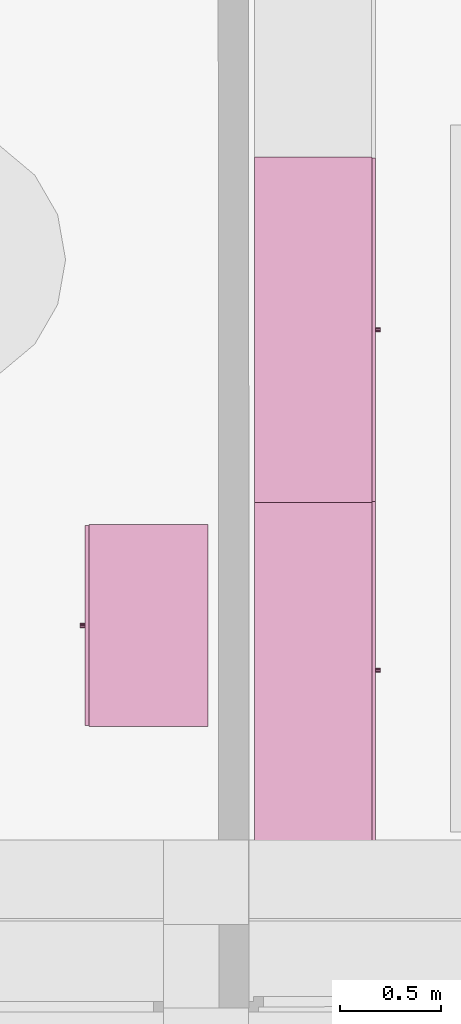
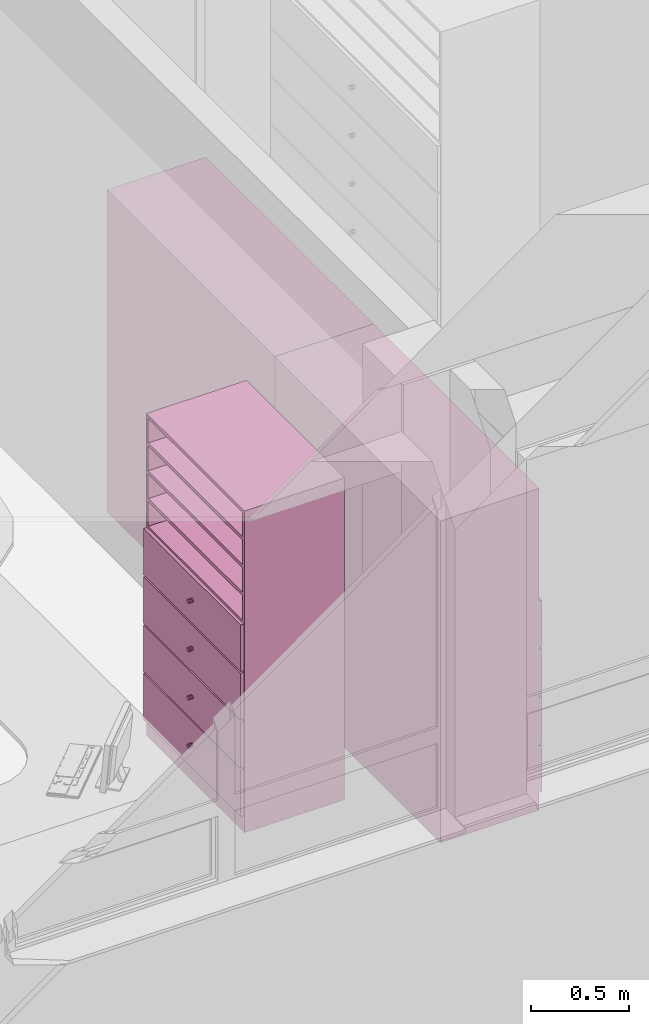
# One storey, part 129 of 194: 3 furnishings.
"""IFC2X3 building model written with IfcOpenShell, lengths in millimetres."""

from ifc_helpers import new_model, entity, si_unit, converted_unit, derived_unit, money_unit, direction, frame, origin_with_axes, place, context, subcontext, project, spatial, faceted_brep, source, transform, mapped, type_object, element, save


model = new_model("IFC2X3")

# Units and contexts
model_context = context("Model", 3, precision=1e-05, world=origin_with_axes(), true_north=direction((0.0, 1.0)))
body_context = subcontext(model_context, "Body", "Model", "MODEL_VIEW")
ifc_project = project(units=[si_unit("LENGTHUNIT", "METRE", prefix="MILLI"), si_unit("AREAUNIT", "SQUARE_METRE"), si_unit("VOLUMEUNIT", "CUBIC_METRE"), converted_unit("PLANEANGLEUNIT", "DEGREE", entity("IfcPlaneAngleMeasure", 0.0174532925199), si_unit("PLANEANGLEUNIT", "RADIAN"), dimensions=[0, 0, 0, 0, 0, 0, 0]), si_unit("SOLIDANGLEUNIT", "STERADIAN"), money_unit("EUR"), converted_unit("TIMEUNIT", "Year", entity("IfcTimeMeasure", 31556926.0), si_unit("TIMEUNIT", "SECOND"), dimensions=[0, 0, 1, 0, 0, 0, 0]), si_unit("MASSUNIT", "GRAM", prefix="KILO"), si_unit("THERMODYNAMICTEMPERATUREUNIT", "DEGREE_CELSIUS"), si_unit("LUMINOUSINTENSITYUNIT", "LUMEN"), si_unit("ENERGYUNIT", "JOULE", prefix="MEGA"), derived_unit("THERMALCONDUCTANCEUNIT", [(si_unit("POWERUNIT", "WATT"), 1), (si_unit("LENGTHUNIT", "METRE"), -1), (si_unit("THERMODYNAMICTEMPERATUREUNIT", "KELVIN"), -1)]), derived_unit("SPECIFICHEATCAPACITYUNIT", [(si_unit("ENERGYUNIT", "JOULE"), 1), (si_unit("MASSUNIT", "GRAM", prefix="KILO"), -1), (si_unit("THERMODYNAMICTEMPERATUREUNIT", "KELVIN"), -1)]), derived_unit("MASSDENSITYUNIT", [(si_unit("MASSUNIT", "GRAM", prefix="KILO"), 1), (si_unit("VOLUMEUNIT", "CUBIC_METRE"), -1)])], contexts=[model_context])

# Site, building, storey
site_placement = place(None, origin_with_axes())
site = spatial("IfcSite", under=ifc_project, at=site_placement, Name="Site", CompositionType="ELEMENT")
building_placement = place(site_placement, origin_with_axes())
building = spatial("IfcBuilding", under=site, at=building_placement, Name="Building", CompositionType="ELEMENT")
storey_placement = place(building_placement, frame((0.0, 0.0, 3000.0), z_axis=(0.0, 0.0, 1.0), x_axis=(1.0, 0.0, 0.0)))
storey = spatial("IfcBuildingStorey", under=building, at=storey_placement, Name="2 KORRUS", CompositionType="ELEMENT", Elevation=3000.0)

# Furnishings
furnishing_element_type_1 = type_object("IfcFurnishingElementType", Name="Model Element 23")
shared_shape_1 = source(origin_with_axes(), body_context, "Body", "Brep", [
    faceted_brep([(1000.0, 19.0, 0.0), (0.0, 19.0, 0.0), (0.0, 608.037064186, 0.0), (1000.0, 608.037064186, 0.0), (1000.0, 19.0, 100.0), (0.0, 19.0, 100.0), (0.0, 608.037064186, 100.0), (1000.0, 608.037064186, 100.0)], [[[0, 1, 2, 3]], [[1, 0, 4, 5]], [[2, 1, 5, 6]], [[3, 2, 6, 7]], [[0, 3, 7, 4]], [[5, 4, 7, 6]]]),
    faceted_brep([(19.0, 608.037064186, 119.0), (19.0, 589.037064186, 119.0), (19.0, 589.037064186, 1981.0), (19.0, 608.037064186, 1981.0), (981.0, 608.037064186, 119.0), (981.0, 589.037064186, 119.0), (981.0, 589.037064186, 1981.0), (981.0, 608.037064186, 1981.0)], [[[0, 1, 2, 3]], [[0, 4, 5, 1]], [[1, 5, 6, 2]], [[3, 2, 6, 7]], [[4, 0, 3, 7]], [[5, 4, 7, 6]]]),
    faceted_brep([(1000.0, 19.0, 100.0), (981.0, 19.0, 100.0), (981.0, 608.037064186, 100.0), (1000.0, 608.037064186, 100.0), (1000.0, 19.0, 2000.0), (981.0, 19.0, 2000.0), (981.0, 608.037064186, 2000.0), (1000.0, 608.037064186, 2000.0)], [[[0, 1, 2, 3]], [[1, 0, 4, 5]], [[2, 1, 5, 6]], [[3, 2, 6, 7]], [[0, 3, 7, 4]], [[5, 4, 7, 6]]]),
    faceted_brep([(19.0, 19.0, 100.0), (0.0, 19.0, 100.0), (0.0, 608.037064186, 100.0), (19.0, 608.037064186, 100.0), (19.0, 19.0, 2000.0), (0.0, 19.0, 2000.0), (0.0, 608.037064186, 2000.0), (19.0, 608.037064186, 2000.0)], [[[0, 1, 2, 3]], [[1, 0, 4, 5]], [[2, 1, 5, 6]], [[3, 2, 6, 7]], [[0, 3, 7, 4]], [[5, 4, 7, 6]]]),
    faceted_brep([(981.0, 19.0, 100.0), (19.0, 19.0, 100.0), (19.0, 608.037064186, 100.0), (981.0, 608.037064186, 100.0), (981.0, 19.0, 119.0), (19.0, 19.0, 119.0), (19.0, 608.037064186, 119.0), (981.0, 608.037064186, 119.0)], [[[0, 1, 2, 3]], [[1, 0, 4, 5]], [[2, 1, 5, 6]], [[3, 2, 6, 7]], [[0, 3, 7, 4]], [[5, 4, 7, 6]]]),
    faceted_brep([(981.0, 19.0, 1981.0), (19.0, 19.0, 1981.0), (19.0, 608.037064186, 1981.0), (981.0, 608.037064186, 1981.0), (981.0, 19.0, 2000.0), (19.0, 19.0, 2000.0), (19.0, 608.037064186, 2000.0), (981.0, 608.037064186, 2000.0)], [[[0, 1, 2, 3]], [[1, 0, 4, 5]], [[2, 1, 5, 6]], [[3, 2, 6, 7]], [[0, 3, 7, 4]], [[5, 4, 7, 6]]]),
    faceted_brep([(5.0, 19.0, 105.0), (995.0, 19.0, 105.0), (995.0, 0.0, 105.0), (5.0, 0.0, 105.0), (5.0, 19.0, 395.0), (995.0, 19.0, 395.0), (995.0, 0.0, 395.0), (5.0, 0.0, 395.0)], [[[0, 1, 2, 3]], [[0, 4, 5, 1]], [[1, 5, 6, 2]], [[3, 2, 6, 7]], [[4, 0, 3, 7]], [[5, 4, 7, 6]]]),
    faceted_brep([(510.392304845, 0.0, 244.0), (506.0, 0.0, 239.607695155), (500.0, 0.0, 238.0), (494.0, 0.0, 239.607695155), (489.607695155, 0.0, 244.0), (488.0, 0.0, 250.0), (489.607695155, 0.0, 256.0), (494.0, 0.0, 260.392304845), (500.0, 0.0, 262.0), (506.0, 0.0, 260.392304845), (510.392304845, 0.0, 256.0), (512.0, 0.0, 250.0), (510.392304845, -25.0, 244.0), (506.0, -25.0, 239.607695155), (500.0, -25.0, 238.0), (494.0, -25.0, 239.607695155), (489.607695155, -25.0, 244.0), (488.0, -25.0, 250.0), (489.607695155, -25.0, 256.0), (494.0, -25.0, 260.392304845), (500.0, -25.0, 262.0), (506.0, -25.0, 260.392304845), (510.392304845, -25.0, 256.0), (512.0, -25.0, 250.0)], [[[0, 1, 2, 3, 4, 5, 6, 7, 8, 9, 10, 11]], [[1, 0, 12, 13]], [[2, 1, 13, 14]], [[3, 2, 14, 15]], [[4, 3, 15, 16]], [[5, 4, 16, 17]], [[6, 5, 17, 18]], [[7, 6, 18, 19]], [[8, 7, 19, 20]], [[9, 8, 20, 21]], [[10, 9, 21, 22]], [[11, 10, 22, 23]], [[0, 11, 23, 12]], [[12, 23, 22, 21, 20, 19, 18, 17, 16, 15, 14, 13]]]),
    faceted_brep([(5.0, 19.0, 405.0), (995.0, 19.0, 405.0), (995.0, 0.0, 405.0), (5.0, 0.0, 405.0), (5.0, 19.0, 695.0), (995.0, 19.0, 695.0), (995.0, 0.0, 695.0), (5.0, 0.0, 695.0)], [[[0, 1, 2, 3]], [[0, 4, 5, 1]], [[1, 5, 6, 2]], [[3, 2, 6, 7]], [[4, 0, 3, 7]], [[5, 4, 7, 6]]]),
    faceted_brep([(510.392304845, 0.0, 544.0), (506.0, 0.0, 539.607695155), (500.0, 0.0, 538.0), (494.0, 0.0, 539.607695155), (489.607695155, 0.0, 544.0), (488.0, 0.0, 550.0), (489.607695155, 0.0, 556.0), (494.0, 0.0, 560.392304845), (500.0, 0.0, 562.0), (506.0, 0.0, 560.392304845), (510.392304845, 0.0, 556.0), (512.0, 0.0, 550.0), (510.392304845, -25.0, 544.0), (506.0, -25.0, 539.607695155), (500.0, -25.0, 538.0), (494.0, -25.0, 539.607695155), (489.607695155, -25.0, 544.0), (488.0, -25.0, 550.0), (489.607695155, -25.0, 556.0), (494.0, -25.0, 560.392304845), (500.0, -25.0, 562.0), (506.0, -25.0, 560.392304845), (510.392304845, -25.0, 556.0), (512.0, -25.0, 550.0)], [[[0, 1, 2, 3, 4, 5, 6, 7, 8, 9, 10, 11]], [[1, 0, 12, 13]], [[2, 1, 13, 14]], [[3, 2, 14, 15]], [[4, 3, 15, 16]], [[5, 4, 16, 17]], [[6, 5, 17, 18]], [[7, 6, 18, 19]], [[8, 7, 19, 20]], [[9, 8, 20, 21]], [[10, 9, 21, 22]], [[11, 10, 22, 23]], [[0, 11, 23, 12]], [[12, 23, 22, 21, 20, 19, 18, 17, 16, 15, 14, 13]]]),
    faceted_brep([(5.0, 19.0, 705.0), (995.0, 19.0, 705.0), (995.0, 0.0, 705.0), (5.0, 0.0, 705.0), (5.0, 19.0, 995.0), (995.0, 19.0, 995.0), (995.0, 0.0, 995.0), (5.0, 0.0, 995.0)], [[[0, 1, 2, 3]], [[0, 4, 5, 1]], [[1, 5, 6, 2]], [[3, 2, 6, 7]], [[4, 0, 3, 7]], [[5, 4, 7, 6]]]),
    faceted_brep([(510.392304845, 0.0, 844.0), (506.0, 0.0, 839.607695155), (500.0, 0.0, 838.0), (494.0, 0.0, 839.607695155), (489.607695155, 0.0, 844.0), (488.0, 0.0, 850.0), (489.607695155, 0.0, 856.0), (494.0, 0.0, 860.392304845), (500.0, 0.0, 862.0), (506.0, 0.0, 860.392304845), (510.392304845, 0.0, 856.0), (512.0, 0.0, 850.0), (510.392304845, -25.0, 844.0), (506.0, -25.0, 839.607695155), (500.0, -25.0, 838.0), (494.0, -25.0, 839.607695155), (489.607695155, -25.0, 844.0), (488.0, -25.0, 850.0), (489.607695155, -25.0, 856.0), (494.0, -25.0, 860.392304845), (500.0, -25.0, 862.0), (506.0, -25.0, 860.392304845), (510.392304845, -25.0, 856.0), (512.0, -25.0, 850.0)], [[[0, 1, 2, 3, 4, 5, 6, 7, 8, 9, 10, 11]], [[1, 0, 12, 13]], [[2, 1, 13, 14]], [[3, 2, 14, 15]], [[4, 3, 15, 16]], [[5, 4, 16, 17]], [[6, 5, 17, 18]], [[7, 6, 18, 19]], [[8, 7, 19, 20]], [[9, 8, 20, 21]], [[10, 9, 21, 22]], [[11, 10, 22, 23]], [[0, 11, 23, 12]], [[12, 23, 22, 21, 20, 19, 18, 17, 16, 15, 14, 13]]]),
    faceted_brep([(5.0, 19.0, 1005.0), (995.0, 19.0, 1005.0), (995.0, 0.0, 1005.0), (5.0, 0.0, 1005.0), (5.0, 19.0, 1295.0), (995.0, 19.0, 1295.0), (995.0, 0.0, 1295.0), (5.0, 0.0, 1295.0)], [[[0, 1, 2, 3]], [[0, 4, 5, 1]], [[1, 5, 6, 2]], [[3, 2, 6, 7]], [[4, 0, 3, 7]], [[5, 4, 7, 6]]]),
    faceted_brep([(510.392304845, 0.0, 1144.0), (506.0, 0.0, 1139.60769515), (500.0, 0.0, 1138.0), (494.0, 0.0, 1139.60769515), (489.607695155, 0.0, 1144.0), (488.0, 0.0, 1150.0), (489.607695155, 0.0, 1156.0), (494.0, 0.0, 1160.39230485), (500.0, 0.0, 1162.0), (506.0, 0.0, 1160.39230485), (510.392304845, 0.0, 1156.0), (512.0, 0.0, 1150.0), (510.392304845, -25.0, 1144.0), (506.0, -25.0, 1139.60769515), (500.0, -25.0, 1138.0), (494.0, -25.0, 1139.60769515), (489.607695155, -25.0, 1144.0), (488.0, -25.0, 1150.0), (489.607695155, -25.0, 1156.0), (494.0, -25.0, 1160.39230485), (500.0, -25.0, 1162.0), (506.0, -25.0, 1160.39230485), (510.392304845, -25.0, 1156.0), (512.0, -25.0, 1150.0)], [[[0, 1, 2, 3, 4, 5, 6, 7, 8, 9, 10, 11]], [[1, 0, 12, 13]], [[2, 1, 13, 14]], [[3, 2, 14, 15]], [[4, 3, 15, 16]], [[5, 4, 16, 17]], [[6, 5, 17, 18]], [[7, 6, 18, 19]], [[8, 7, 19, 20]], [[9, 8, 20, 21]], [[10, 9, 21, 22]], [[11, 10, 22, 23]], [[0, 11, 23, 12]], [[12, 23, 22, 21, 20, 19, 18, 17, 16, 15, 14, 13]]]),
    faceted_brep([(19.0, 19.0, 390.5), (981.0, 19.0, 390.5), (981.0, 19.0, 409.5), (19.0, 19.0, 409.5), (19.0, 589.037064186, 390.5), (981.0, 589.037064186, 390.5), (981.0, 589.037064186, 409.5), (19.0, 589.037064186, 409.5)], [[[0, 1, 2, 3]], [[0, 4, 5, 1]], [[1, 5, 6, 2]], [[3, 2, 6, 7]], [[4, 0, 3, 7]], [[5, 4, 7, 6]]]),
    faceted_brep([(19.0, 19.0, 690.5), (981.0, 19.0, 690.5), (981.0, 19.0, 709.5), (19.0, 19.0, 709.5), (19.0, 589.037064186, 690.5), (981.0, 589.037064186, 690.5), (981.0, 589.037064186, 709.5), (19.0, 589.037064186, 709.5)], [[[0, 1, 2, 3]], [[0, 4, 5, 1]], [[1, 5, 6, 2]], [[3, 2, 6, 7]], [[4, 0, 3, 7]], [[5, 4, 7, 6]]]),
    faceted_brep([(19.0, 19.0, 990.5), (981.0, 19.0, 990.5), (981.0, 19.0, 1009.5), (19.0, 19.0, 1009.5), (19.0, 589.037064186, 990.5), (981.0, 589.037064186, 990.5), (981.0, 589.037064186, 1009.5), (19.0, 589.037064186, 1009.5)], [[[0, 1, 2, 3]], [[0, 4, 5, 1]], [[1, 5, 6, 2]], [[3, 2, 6, 7]], [[4, 0, 3, 7]], [[5, 4, 7, 6]]]),
    faceted_brep([(19.0, 19.0, 1290.5), (981.0, 19.0, 1290.5), (981.0, 19.0, 1309.5), (19.0, 19.0, 1309.5), (19.0, 589.037064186, 1290.5), (981.0, 589.037064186, 1290.5), (981.0, 589.037064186, 1309.5), (19.0, 589.037064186, 1309.5)], [[[0, 1, 2, 3]], [[0, 4, 5, 1]], [[1, 5, 6, 2]], [[3, 2, 6, 7]], [[4, 0, 3, 7]], [[5, 4, 7, 6]]]),
    faceted_brep([(981.0, 19.0, 1463.125), (19.0, 19.0, 1463.125), (19.0, 589.037064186, 1463.125), (981.0, 589.037064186, 1463.125), (981.0, 19.0, 1482.125), (19.0, 19.0, 1482.125), (19.0, 589.037064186, 1482.125), (981.0, 589.037064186, 1482.125)], [[[0, 1, 2, 3]], [[1, 0, 4, 5]], [[2, 1, 5, 6]], [[3, 2, 6, 7]], [[0, 3, 7, 4]], [[5, 4, 7, 6]]]),
    faceted_brep([(981.0, 19.0, 1635.75), (19.0, 19.0, 1635.75), (19.0, 589.037064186, 1635.75), (981.0, 589.037064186, 1635.75), (981.0, 19.0, 1654.75), (19.0, 19.0, 1654.75), (19.0, 589.037064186, 1654.75), (981.0, 589.037064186, 1654.75)], [[[0, 1, 2, 3]], [[1, 0, 4, 5]], [[2, 1, 5, 6]], [[3, 2, 6, 7]], [[0, 3, 7, 4]], [[5, 4, 7, 6]]]),
    faceted_brep([(981.0, 19.0, 1808.375), (19.0, 19.0, 1808.375), (19.0, 589.037064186, 1808.375), (981.0, 589.037064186, 1808.375), (981.0, 19.0, 1827.375), (19.0, 19.0, 1827.375), (19.0, 589.037064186, 1827.375), (981.0, 589.037064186, 1827.375)], [[[0, 1, 2, 3]], [[1, 0, 4, 5]], [[2, 1, 5, 6]], [[3, 2, 6, 7]], [[0, 3, 7, 4]], [[5, 4, 7, 6]]]),
])
furnishing_placement = place(storey_placement, frame((21346.8649529, 61298.9262867, 0.0), z_axis=(0.0, 0.0, 1.0), x_axis=(-0.00064265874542, -0.999999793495, 0.0)))
element("IfcFurnishingElement", 1, at=furnishing_placement, inside=storey, type_object=furnishing_element_type_1, Name="FU - 001", context=body_context, shape_type="MappedRepresentation", body=[
    mapped(shared_shape_1, transform((0.0, 0.0, 0.0))),
])
furnishing_element_type_2 = type_object("IfcFurnishingElementType", Name="Model Element 35")
shared_shape_2 = source(origin_with_axes(), body_context, "Body", "Brep", [
    faceted_brep([(1709.22062814, 19.0, 0.0), (0.0, 19.0, 0.0), (0.0, 600.0, 0.0), (1709.22062814, 600.0, 0.0), (1709.22062814, 19.0, 100.0), (0.0, 19.0, 100.0), (0.0, 600.0, 100.0), (1709.22062814, 600.0, 100.0)], [[[0, 1, 2, 3]], [[1, 0, 4, 5]], [[2, 1, 5, 6]], [[3, 2, 6, 7]], [[0, 3, 7, 4]], [[5, 4, 7, 6]]]),
    faceted_brep([(19.0, 600.0, 119.0), (19.0, 581.0, 119.0), (19.0, 581.0, 1981.0), (19.0, 600.0, 1981.0), (1690.22062814, 600.0, 119.0), (1690.22062814, 581.0, 119.0), (1690.22062814, 581.0, 1981.0), (1690.22062814, 600.0, 1981.0)], [[[0, 1, 2, 3]], [[0, 4, 5, 1]], [[1, 5, 6, 2]], [[3, 2, 6, 7]], [[4, 0, 3, 7]], [[5, 4, 7, 6]]]),
    faceted_brep([(1709.22062814, 19.0, 100.0), (1690.22062814, 19.0, 100.0), (1690.22062814, 600.0, 100.0), (1709.22062814, 600.0, 100.0), (1709.22062814, 19.0, 2000.0), (1690.22062814, 19.0, 2000.0), (1690.22062814, 600.0, 2000.0), (1709.22062814, 600.0, 2000.0)], [[[0, 1, 2, 3]], [[1, 0, 4, 5]], [[2, 1, 5, 6]], [[3, 2, 6, 7]], [[0, 3, 7, 4]], [[5, 4, 7, 6]]]),
    faceted_brep([(19.0, 19.0, 100.0), (0.0, 19.0, 100.0), (0.0, 600.0, 100.0), (19.0, 600.0, 100.0), (19.0, 19.0, 2000.0), (0.0, 19.0, 2000.0), (0.0, 600.0, 2000.0), (19.0, 600.0, 2000.0)], [[[0, 1, 2, 3]], [[1, 0, 4, 5]], [[2, 1, 5, 6]], [[3, 2, 6, 7]], [[0, 3, 7, 4]], [[5, 4, 7, 6]]]),
    faceted_brep([(1690.22062814, 19.0, 100.0), (19.0, 19.0, 100.0), (19.0, 600.0, 100.0), (1690.22062814, 600.0, 100.0), (1690.22062814, 19.0, 119.0), (19.0, 19.0, 119.0), (19.0, 600.0, 119.0), (1690.22062814, 600.0, 119.0)], [[[0, 1, 2, 3]], [[1, 0, 4, 5]], [[2, 1, 5, 6]], [[3, 2, 6, 7]], [[0, 3, 7, 4]], [[5, 4, 7, 6]]]),
    faceted_brep([(1690.22062814, 19.0, 1981.0), (19.0, 19.0, 1981.0), (19.0, 600.0, 1981.0), (1690.22062814, 600.0, 1981.0), (1690.22062814, 19.0, 2000.0), (19.0, 19.0, 2000.0), (19.0, 600.0, 2000.0), (1690.22062814, 600.0, 2000.0)], [[[0, 1, 2, 3]], [[1, 0, 4, 5]], [[2, 1, 5, 6]], [[3, 2, 6, 7]], [[0, 3, 7, 4]], [[5, 4, 7, 6]]]),
    faceted_brep([(5.0, 19.0, 105.0), (1704.22062814, 19.0, 105.0), (1704.22062814, 0.0, 105.0), (5.0, 0.0, 105.0), (5.0, 19.0, 395.0), (1704.22062814, 19.0, 395.0), (1704.22062814, 0.0, 395.0), (5.0, 0.0, 395.0)], [[[0, 1, 2, 3]], [[0, 4, 5, 1]], [[1, 5, 6, 2]], [[3, 2, 6, 7]], [[4, 0, 3, 7]], [[5, 4, 7, 6]]]),
    faceted_brep([(865.002618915, 0.0, 244.0), (860.610314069, 0.0, 239.607695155), (854.610314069, 0.0, 238.0), (848.610314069, 0.0, 239.607695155), (844.218009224, 0.0, 244.0), (842.610314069, 0.0, 250.0), (844.218009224, 0.0, 256.0), (848.610314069, 0.0, 260.392304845), (854.610314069, 0.0, 262.0), (860.610314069, 0.0, 260.392304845), (865.002618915, 0.0, 256.0), (866.610314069, 0.0, 250.0), (865.002618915, -25.0, 244.0), (860.610314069, -25.0, 239.607695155), (854.610314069, -25.0, 238.0), (848.610314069, -25.0, 239.607695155), (844.218009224, -25.0, 244.0), (842.610314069, -25.0, 250.0), (844.218009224, -25.0, 256.0), (848.610314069, -25.0, 260.392304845), (854.610314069, -25.0, 262.0), (860.610314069, -25.0, 260.392304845), (865.002618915, -25.0, 256.0), (866.610314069, -25.0, 250.0)], [[[0, 1, 2, 3, 4, 5, 6, 7, 8, 9, 10, 11]], [[1, 0, 12, 13]], [[2, 1, 13, 14]], [[3, 2, 14, 15]], [[4, 3, 15, 16]], [[5, 4, 16, 17]], [[6, 5, 17, 18]], [[7, 6, 18, 19]], [[8, 7, 19, 20]], [[9, 8, 20, 21]], [[10, 9, 21, 22]], [[11, 10, 22, 23]], [[0, 11, 23, 12]], [[12, 23, 22, 21, 20, 19, 18, 17, 16, 15, 14, 13]]]),
    faceted_brep([(5.0, 19.0, 405.0), (1704.22062814, 19.0, 405.0), (1704.22062814, 0.0, 405.0), (5.0, 0.0, 405.0), (5.0, 19.0, 695.0), (1704.22062814, 19.0, 695.0), (1704.22062814, 0.0, 695.0), (5.0, 0.0, 695.0)], [[[0, 1, 2, 3]], [[0, 4, 5, 1]], [[1, 5, 6, 2]], [[3, 2, 6, 7]], [[4, 0, 3, 7]], [[5, 4, 7, 6]]]),
    faceted_brep([(865.002618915, 0.0, 544.0), (860.610314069, 0.0, 539.607695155), (854.610314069, 0.0, 538.0), (848.610314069, 0.0, 539.607695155), (844.218009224, 0.0, 544.0), (842.610314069, 0.0, 550.0), (844.218009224, 0.0, 556.0), (848.610314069, 0.0, 560.392304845), (854.610314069, 0.0, 562.0), (860.610314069, 0.0, 560.392304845), (865.002618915, 0.0, 556.0), (866.610314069, 0.0, 550.0), (865.002618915, -25.0, 544.0), (860.610314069, -25.0, 539.607695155), (854.610314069, -25.0, 538.0), (848.610314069, -25.0, 539.607695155), (844.218009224, -25.0, 544.0), (842.610314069, -25.0, 550.0), (844.218009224, -25.0, 556.0), (848.610314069, -25.0, 560.392304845), (854.610314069, -25.0, 562.0), (860.610314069, -25.0, 560.392304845), (865.002618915, -25.0, 556.0), (866.610314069, -25.0, 550.0)], [[[0, 1, 2, 3, 4, 5, 6, 7, 8, 9, 10, 11]], [[1, 0, 12, 13]], [[2, 1, 13, 14]], [[3, 2, 14, 15]], [[4, 3, 15, 16]], [[5, 4, 16, 17]], [[6, 5, 17, 18]], [[7, 6, 18, 19]], [[8, 7, 19, 20]], [[9, 8, 20, 21]], [[10, 9, 21, 22]], [[11, 10, 22, 23]], [[0, 11, 23, 12]], [[12, 23, 22, 21, 20, 19, 18, 17, 16, 15, 14, 13]]]),
    faceted_brep([(5.0, 19.0, 705.0), (1704.22062814, 19.0, 705.0), (1704.22062814, 0.0, 705.0), (5.0, 0.0, 705.0), (5.0, 19.0, 995.0), (1704.22062814, 19.0, 995.0), (1704.22062814, 0.0, 995.0), (5.0, 0.0, 995.0)], [[[0, 1, 2, 3]], [[0, 4, 5, 1]], [[1, 5, 6, 2]], [[3, 2, 6, 7]], [[4, 0, 3, 7]], [[5, 4, 7, 6]]]),
    faceted_brep([(865.002618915, 0.0, 844.0), (860.610314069, 0.0, 839.607695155), (854.610314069, 0.0, 838.0), (848.610314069, 0.0, 839.607695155), (844.218009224, 0.0, 844.0), (842.610314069, 0.0, 850.0), (844.218009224, 0.0, 856.0), (848.610314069, 0.0, 860.392304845), (854.610314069, 0.0, 862.0), (860.610314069, 0.0, 860.392304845), (865.002618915, 0.0, 856.0), (866.610314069, 0.0, 850.0), (865.002618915, -25.0, 844.0), (860.610314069, -25.0, 839.607695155), (854.610314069, -25.0, 838.0), (848.610314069, -25.0, 839.607695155), (844.218009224, -25.0, 844.0), (842.610314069, -25.0, 850.0), (844.218009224, -25.0, 856.0), (848.610314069, -25.0, 860.392304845), (854.610314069, -25.0, 862.0), (860.610314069, -25.0, 860.392304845), (865.002618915, -25.0, 856.0), (866.610314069, -25.0, 850.0)], [[[0, 1, 2, 3, 4, 5, 6, 7, 8, 9, 10, 11]], [[1, 0, 12, 13]], [[2, 1, 13, 14]], [[3, 2, 14, 15]], [[4, 3, 15, 16]], [[5, 4, 16, 17]], [[6, 5, 17, 18]], [[7, 6, 18, 19]], [[8, 7, 19, 20]], [[9, 8, 20, 21]], [[10, 9, 21, 22]], [[11, 10, 22, 23]], [[0, 11, 23, 12]], [[12, 23, 22, 21, 20, 19, 18, 17, 16, 15, 14, 13]]]),
    faceted_brep([(5.0, 19.0, 1005.0), (1704.22062814, 19.0, 1005.0), (1704.22062814, 0.0, 1005.0), (5.0, 0.0, 1005.0), (5.0, 19.0, 1295.0), (1704.22062814, 19.0, 1295.0), (1704.22062814, 0.0, 1295.0), (5.0, 0.0, 1295.0)], [[[0, 1, 2, 3]], [[0, 4, 5, 1]], [[1, 5, 6, 2]], [[3, 2, 6, 7]], [[4, 0, 3, 7]], [[5, 4, 7, 6]]]),
    faceted_brep([(865.002618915, 0.0, 1144.0), (860.610314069, 0.0, 1139.60769515), (854.610314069, 0.0, 1138.0), (848.610314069, 0.0, 1139.60769515), (844.218009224, 0.0, 1144.0), (842.610314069, 0.0, 1150.0), (844.218009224, 0.0, 1156.0), (848.610314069, 0.0, 1160.39230485), (854.610314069, 0.0, 1162.0), (860.610314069, 0.0, 1160.39230485), (865.002618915, 0.0, 1156.0), (866.610314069, 0.0, 1150.0), (865.002618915, -25.0, 1144.0), (860.610314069, -25.0, 1139.60769515), (854.610314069, -25.0, 1138.0), (848.610314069, -25.0, 1139.60769515), (844.218009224, -25.0, 1144.0), (842.610314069, -25.0, 1150.0), (844.218009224, -25.0, 1156.0), (848.610314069, -25.0, 1160.39230485), (854.610314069, -25.0, 1162.0), (860.610314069, -25.0, 1160.39230485), (865.002618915, -25.0, 1156.0), (866.610314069, -25.0, 1150.0)], [[[0, 1, 2, 3, 4, 5, 6, 7, 8, 9, 10, 11]], [[1, 0, 12, 13]], [[2, 1, 13, 14]], [[3, 2, 14, 15]], [[4, 3, 15, 16]], [[5, 4, 16, 17]], [[6, 5, 17, 18]], [[7, 6, 18, 19]], [[8, 7, 19, 20]], [[9, 8, 20, 21]], [[10, 9, 21, 22]], [[11, 10, 22, 23]], [[0, 11, 23, 12]], [[12, 23, 22, 21, 20, 19, 18, 17, 16, 15, 14, 13]]]),
    faceted_brep([(19.0, 19.0, 390.5), (1690.22062814, 19.0, 390.5), (1690.22062814, 19.0, 409.5), (19.0, 19.0, 409.5), (19.0, 581.0, 390.5), (1690.22062814, 581.0, 390.5), (1690.22062814, 581.0, 409.5), (19.0, 581.0, 409.5)], [[[0, 1, 2, 3]], [[0, 4, 5, 1]], [[1, 5, 6, 2]], [[3, 2, 6, 7]], [[4, 0, 3, 7]], [[5, 4, 7, 6]]]),
    faceted_brep([(19.0, 19.0, 690.5), (1690.22062814, 19.0, 690.5), (1690.22062814, 19.0, 709.5), (19.0, 19.0, 709.5), (19.0, 581.0, 690.5), (1690.22062814, 581.0, 690.5), (1690.22062814, 581.0, 709.5), (19.0, 581.0, 709.5)], [[[0, 1, 2, 3]], [[0, 4, 5, 1]], [[1, 5, 6, 2]], [[3, 2, 6, 7]], [[4, 0, 3, 7]], [[5, 4, 7, 6]]]),
    faceted_brep([(19.0, 19.0, 990.5), (1690.22062814, 19.0, 990.5), (1690.22062814, 19.0, 1009.5), (19.0, 19.0, 1009.5), (19.0, 581.0, 990.5), (1690.22062814, 581.0, 990.5), (1690.22062814, 581.0, 1009.5), (19.0, 581.0, 1009.5)], [[[0, 1, 2, 3]], [[0, 4, 5, 1]], [[1, 5, 6, 2]], [[3, 2, 6, 7]], [[4, 0, 3, 7]], [[5, 4, 7, 6]]]),
    faceted_brep([(19.0, 19.0, 1290.5), (1690.22062814, 19.0, 1290.5), (1690.22062814, 19.0, 1309.5), (19.0, 19.0, 1309.5), (19.0, 581.0, 1290.5), (1690.22062814, 581.0, 1290.5), (1690.22062814, 581.0, 1309.5), (19.0, 581.0, 1309.5)], [[[0, 1, 2, 3]], [[0, 4, 5, 1]], [[1, 5, 6, 2]], [[3, 2, 6, 7]], [[4, 0, 3, 7]], [[5, 4, 7, 6]]]),
    faceted_brep([(1690.22062814, 19.0, 1463.125), (19.0, 19.0, 1463.125), (19.0, 581.0, 1463.125), (1690.22062814, 581.0, 1463.125), (1690.22062814, 19.0, 1482.125), (19.0, 19.0, 1482.125), (19.0, 581.0, 1482.125), (1690.22062814, 581.0, 1482.125)], [[[0, 1, 2, 3]], [[1, 0, 4, 5]], [[2, 1, 5, 6]], [[3, 2, 6, 7]], [[0, 3, 7, 4]], [[5, 4, 7, 6]]]),
    faceted_brep([(1690.22062814, 19.0, 1635.75), (19.0, 19.0, 1635.75), (19.0, 581.0, 1635.75), (1690.22062814, 581.0, 1635.75), (1690.22062814, 19.0, 1654.75), (19.0, 19.0, 1654.75), (19.0, 581.0, 1654.75), (1690.22062814, 581.0, 1654.75)], [[[0, 1, 2, 3]], [[1, 0, 4, 5]], [[2, 1, 5, 6]], [[3, 2, 6, 7]], [[0, 3, 7, 4]], [[5, 4, 7, 6]]]),
    faceted_brep([(1690.22062814, 19.0, 1808.375), (19.0, 19.0, 1808.375), (19.0, 581.0, 1808.375), (1690.22062814, 581.0, 1808.375), (1690.22062814, 19.0, 1827.375), (19.0, 19.0, 1827.375), (19.0, 581.0, 1827.375), (1690.22062814, 581.0, 1827.375)], [[[0, 1, 2, 3]], [[1, 0, 4, 5]], [[2, 1, 5, 6]], [[3, 2, 6, 7]], [[0, 3, 7, 4]], [[5, 4, 7, 6]]]),
])
for number, where, z_axis, x_axis, name in (
    (2, (22784.4941822, 61408.492829, 0.0), (0.0, 0.0, 1.0), (0.0, 1.0, 0.0), "FU - 001"),
    (3, (22784.4941822, 59723.1729569, 0.0), (0.0, 0.0, 1.0), (0.0, 1.0, 0.0), "FU - 001"),
):
    element("IfcFurnishingElement", number, at=place(storey_placement, frame(where, z_axis=z_axis, x_axis=x_axis)), inside=storey, type_object=furnishing_element_type_2, Name=name, context=body_context, shape_type="MappedRepresentation", body=[
        mapped(shared_shape_2, transform((0.0, 0.0, 0.0))),
    ])

save(model, "model.ifc")
